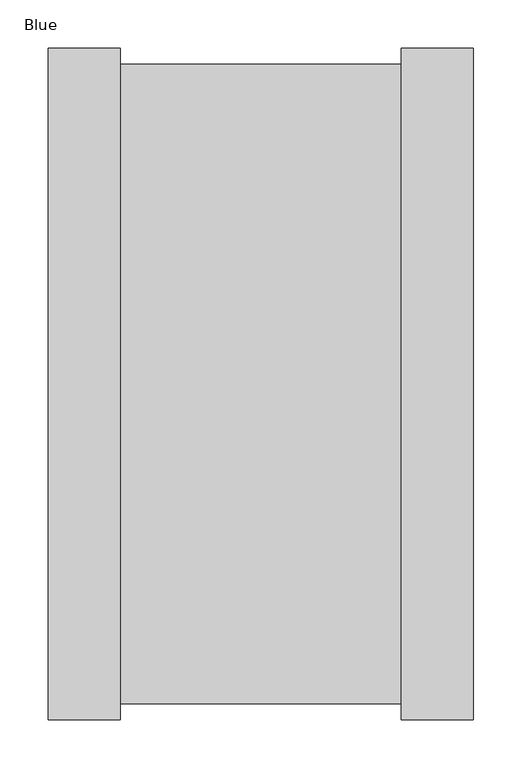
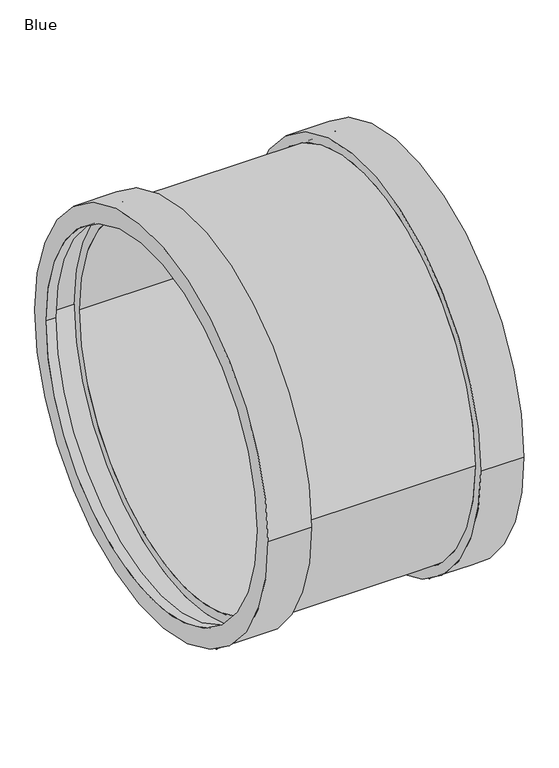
"""IFC4 building model written with IfcOpenShell, lengths in millimetres: pipe fitting geometry, AWADUKT PP Union USM : Blue."""

from ifc_helpers import new_model, si_unit, frame, origin, place, context, project, spatial, polyline, circle_curve, source, transform, mapped, element, save
from ifc_brep_helpers import plane_surface, cylinder_surface, revolved_surface, advanced_brep


def blue_2b39e290(model_context):
    return source(origin(), model_context, "Body", "AdvancedBrep", [
        advanced_brep(
        [(-162.4, 315.0, 0.0), (-162.4, -315.0, 0.0), (162.4, -315.0, 0.0), (162.4, 315.0, 0.0), (-203.9, 331.6, 0.0), (-203.9, -331.6, 0.0), (-162.4, -331.6, 0.0), (-162.4, 331.6, 0.0), (-220.5, 315.0, 0.0), (-220.5, -315.0, 0.0), (-203.9, -315.0, 0.0), (-203.9, 315.0, 0.0), (-145.8, 348.2, 0.0), (-145.8, -348.2, 0.0), (-220.5, -348.2, 0.0), (-220.5, 348.2, 0.0), (145.8, 331.6, 0.0), (145.8, -331.6, 0.0), (-145.8, -331.6, 0.0), (-145.8, 331.6, 0.0), (220.5, 348.2, 0.0), (220.5, -348.2, 0.0), (145.8, -348.2, 0.0), (145.8, 348.2, 0.0), (203.9, 315.0, 0.0), (203.9, -315.0, 0.0), (220.5, -315.0, 0.0), (220.5, 315.0, 0.0), (162.4, 331.6, 0.0), (162.4, -331.6, 0.0), (203.9, -331.6, 0.0), (203.9, 331.6, 0.0)],
        [
            (0, 1, circle_curve(frame((-162.4, 0.0, 0.0), z_axis=(-1.0, 0.0, 0.0), x_axis=(0.0, -1.0, 0.0)), 315.0)),
            (1, 2),
            (2, 3, circle_curve(frame((162.4, 0.0, 0.0), z_axis=(1.0, 0.0, 0.0), x_axis=(0.0, -1.0, 0.0)), 315.0)),
            (3, 0),
            (4, 5, circle_curve(frame((-203.9, 0.0, 0.0), z_axis=(-1.0, 0.0, 0.0), x_axis=(0.0, -1.0, 0.0)), 331.6)),
            (5, 6),
            (6, 7, circle_curve(frame((-162.4, 0.0, 0.0), z_axis=(1.0, 0.0, 0.0), x_axis=(0.0, -1.0, 0.0)), 331.6)),
            (7, 4),
            (8, 9, circle_curve(frame((-220.5, 0.0, 0.0), z_axis=(-1.0, 0.0, 0.0), x_axis=(0.0, -1.0, 0.0)), 315.0)),
            (9, 10),
            (10, 11, circle_curve(frame((-203.9, 0.0, 0.0), z_axis=(1.0, 0.0, 0.0), x_axis=(0.0, -1.0, 0.0)), 315.0)),
            (11, 8),
            (12, 13, circle_curve(frame((-145.8, 0.0, 0.0), z_axis=(-1.0, 0.0, 0.0), x_axis=(0.0, -1.0, 0.0)), 348.2)),
            (13, 14),
            (14, 15, circle_curve(frame((-220.5, 0.0, 0.0), z_axis=(1.0, 0.0, 0.0), x_axis=(0.0, -1.0, 0.0)), 348.2)),
            (15, 12),
            (16, 17, circle_curve(frame((145.8, 0.0, 0.0), z_axis=(-1.0, 0.0, 0.0), x_axis=(0.0, -1.0, 0.0)), 331.6)),
            (17, 18),
            (18, 19, circle_curve(frame((-145.8, 0.0, 0.0), z_axis=(1.0, 0.0, 0.0), x_axis=(0.0, -1.0, 0.0)), 331.6)),
            (19, 16),
            (20, 21, circle_curve(frame((220.5, 0.0, 0.0), z_axis=(-1.0, 0.0, 0.0), x_axis=(0.0, -1.0, 0.0)), 348.2)),
            (21, 22),
            (22, 23, circle_curve(frame((145.8, 0.0, 0.0), z_axis=(1.0, 0.0, 0.0), x_axis=(0.0, -1.0, 0.0)), 348.2)),
            (23, 20),
            (24, 25, circle_curve(frame((203.9, 0.0, 0.0), z_axis=(-1.0, 0.0, 0.0), x_axis=(0.0, -1.0, 0.0)), 315.0)),
            (25, 26),
            (26, 27, circle_curve(frame((220.5, 0.0, 0.0), z_axis=(1.0, 0.0, 0.0), x_axis=(0.0, -1.0, 0.0)), 315.0)),
            (27, 24),
            (28, 29, circle_curve(frame((162.4, 0.0, 0.0), z_axis=(-1.0, 0.0, 0.0), x_axis=(0.0, -1.0, 0.0)), 331.6)),
            (29, 30),
            (30, 31, circle_curve(frame((203.9, 0.0, 0.0), z_axis=(1.0, 0.0, 0.0), x_axis=(0.0, -1.0, 0.0)), 331.6)),
            (31, 28),
            (1, 0, circle_curve(frame((-162.4, 0.0, 0.0), z_axis=(-1.0, 0.0, 0.0), x_axis=(0.0, 1.0, 0.0)), 315.0)),
            (3, 2, circle_curve(frame((162.4, 0.0, 0.0), z_axis=(1.0, 0.0, 0.0), x_axis=(0.0, 1.0, 0.0)), 315.0)),
            (6, 7, circle_curve(frame((-162.4, 0.0, 0.0), z_axis=(-1.0, 0.0, 0.0), x_axis=(0.0, 1.0, 0.0)), 331.6)),
            (5, 4, circle_curve(frame((-203.9, 0.0, 0.0), z_axis=(-1.0, 0.0, 0.0), x_axis=(0.0, 1.0, 0.0)), 331.6)),
            (10, 11, circle_curve(frame((-203.9, 0.0, 0.0), z_axis=(-1.0, 0.0, 0.0), x_axis=(0.0, 1.0, 0.0)), 315.0)),
            (9, 8, circle_curve(frame((-220.5, 0.0, 0.0), z_axis=(-1.0, 0.0, 0.0), x_axis=(0.0, 1.0, 0.0)), 315.0)),
            (14, 15, circle_curve(frame((-220.5, 0.0, 0.0), z_axis=(-1.0, 0.0, 0.0), x_axis=(0.0, 1.0, 0.0)), 348.2)),
            (13, 12, circle_curve(frame((-145.8, 0.0, 0.0), z_axis=(-1.0, 0.0, 0.0), x_axis=(0.0, 1.0, 0.0)), 348.2)),
            (18, 19, circle_curve(frame((-145.8, 0.0, 0.0), z_axis=(-1.0, 0.0, 0.0), x_axis=(0.0, 1.0, 0.0)), 331.6)),
            (17, 16, circle_curve(frame((145.8, 0.0, 0.0), z_axis=(-1.0, 0.0, 0.0), x_axis=(0.0, 1.0, 0.0)), 331.6)),
            (22, 23, circle_curve(frame((145.8, 0.0, 0.0), z_axis=(-1.0, 0.0, 0.0), x_axis=(0.0, 1.0, 0.0)), 348.2)),
            (21, 20, circle_curve(frame((220.5, 0.0, 0.0), z_axis=(-1.0, 0.0, 0.0), x_axis=(0.0, 1.0, 0.0)), 348.2)),
            (26, 27, circle_curve(frame((220.5, 0.0, 0.0), z_axis=(-1.0, 0.0, 0.0), x_axis=(0.0, 1.0, 0.0)), 315.0)),
            (25, 24, circle_curve(frame((203.9, 0.0, 0.0), z_axis=(-1.0, 0.0, 0.0), x_axis=(0.0, 1.0, 0.0)), 315.0)),
            (30, 31, circle_curve(frame((203.9, 0.0, 0.0), z_axis=(-1.0, 0.0, 0.0), x_axis=(0.0, 1.0, 0.0)), 331.6)),
            (29, 28, circle_curve(frame((162.4, 0.0, 0.0), z_axis=(-1.0, 0.0, 0.0), x_axis=(0.0, 1.0, 0.0)), 331.6)),
        ],
        [
            revolved_surface(polyline([(162.4, -315.0, 0.0), (-162.4, -315.0, 0.0)]), (0.0, 0.0, 0.0), (1.0, 0.0, 0.0)),
            revolved_surface(polyline([(-162.4, -331.6, 0.0), (-203.9, -331.6, 0.0)]), (0.0, 0.0, 0.0), (1.0, 0.0, 0.0)),
            revolved_surface(polyline([(-203.9, -315.0, 0.0), (-220.5, -315.0, 0.0)]), (0.0, 0.0, 0.0), (1.0, 0.0, 0.0)),
            cylinder_surface(frame((0.0, 0.0, 0.0), z_axis=(1.0, 0.0, 0.0), x_axis=(0.0, -1.0, 0.0)), 348.2),
            cylinder_surface(frame((0.0, 0.0, 0.0), z_axis=(1.0, 0.0, 0.0), x_axis=(0.0, -1.0, 0.0)), 331.6),
            revolved_surface(polyline([(220.5, -315.0, 0.0), (203.9, -315.0, 0.0)]), (0.0, 0.0, 0.0), (1.0, 0.0, 0.0)),
            revolved_surface(polyline([(203.9, -331.6, 0.0), (162.4, -331.6, 0.0)]), (0.0, 0.0, 0.0), (1.0, 0.0, 0.0)),
            revolved_surface(polyline([(162.4, 315.0, 0.0), (-162.4, 315.0, 0.0)]), (0.0, 0.0, 0.0), (1.0, 0.0, 0.0)),
            plane_surface(frame((-162.4, 0.0, 0.0), z_axis=(-1.0, 0.0, 0.0), x_axis=(0.0, 1.0, 0.0))),
            revolved_surface(polyline([(-162.4, 331.6, 0.0), (-203.9, 331.6, 0.0)]), (0.0, 0.0, 0.0), (1.0, 0.0, 0.0)),
            plane_surface(frame((-203.9, 0.0, 0.0), z_axis=(1.0, 0.0, 0.0), x_axis=(0.0, 1.0, 0.0))),
            revolved_surface(polyline([(-203.9, 315.0, 0.0), (-220.5, 315.0, 0.0)]), (0.0, 0.0, 0.0), (1.0, 0.0, 0.0)),
            plane_surface(frame((-220.5, 0.0, 0.0), z_axis=(-1.0, 0.0, 0.0), x_axis=(0.0, 1.0, 0.0))),
            cylinder_surface(frame((0.0, 0.0, 0.0), z_axis=(1.0, 0.0, 0.0), x_axis=(0.0, 1.0, 0.0)), 348.2),
            plane_surface(frame((-145.8, 0.0, 0.0), z_axis=(1.0, 0.0, 0.0), x_axis=(0.0, 1.0, 0.0))),
            cylinder_surface(frame((0.0, 0.0, 0.0), z_axis=(1.0, 0.0, 0.0), x_axis=(0.0, 1.0, 0.0)), 331.6),
            plane_surface(frame((145.8, 0.0, 0.0), z_axis=(-1.0, 0.0, 0.0), x_axis=(0.0, 1.0, 0.0))),
            plane_surface(frame((220.5, 0.0, 0.0), z_axis=(1.0, 0.0, 0.0), x_axis=(0.0, 1.0, 0.0))),
            revolved_surface(polyline([(220.5, 315.0, 0.0), (203.9, 315.0, 0.0)]), (0.0, 0.0, 0.0), (1.0, 0.0, 0.0)),
            plane_surface(frame((203.9, 0.0, 0.0), z_axis=(-1.0, 0.0, 0.0), x_axis=(0.0, 1.0, 0.0))),
            revolved_surface(polyline([(203.9, 331.6, 0.0), (162.4, 331.6, 0.0)]), (0.0, 0.0, 0.0), (1.0, 0.0, 0.0)),
            plane_surface(frame((162.4, 0.0, 0.0), z_axis=(1.0, 0.0, 0.0), x_axis=(0.0, 1.0, 0.0))),
        ],
        [
            (0, [[1, 2, 3, 4]]),
            (1, [[5, 6, 7, 8]]),
            (2, [[9, 10, 11, 12]]),
            (3, [[13, 14, 15, 16]]),
            (4, [[17, 18, 19, 20]]),
            (3, [[21, 22, 23, 24]]),
            (5, [[25, 26, 27, 28]]),
            (6, [[29, 30, 31, 32]]),
            (7, [[33, -4, 34, -2]]),
            (8, [[35, -7], [-33, -1]]),
            (9, [[36, -8, -35, -6]]),
            (10, [[-36, -5], [37, -11]]),
            (11, [[38, -12, -37, -10]]),
            (12, [[39, -15], [-38, -9]]),
            (13, [[40, -16, -39, -14]]),
            (14, [[-40, -13], [41, -19]]),
            (15, [[42, -20, -41, -18]]),
            (16, [[43, -23], [-42, -17]]),
            (13, [[44, -24, -43, -22]]),
            (17, [[-44, -21], [45, -27]]),
            (18, [[46, -28, -45, -26]]),
            (19, [[47, -31], [-46, -25]]),
            (20, [[48, -32, -47, -30]]),
            (21, [[-48, -29], [-34, -3]]),
        ],
    ),
    ])


if __name__ == "__main__":
    model = new_model("IFC4")
    model_context = context("Model", 3, world=origin())
    ifc_project = project(units=[si_unit("LENGTHUNIT", "METRE", prefix="MILLI")], contexts=[model_context])
    site = spatial("IfcSite", under=ifc_project)
    building = spatial("IfcBuilding", under=site)
    placement = place(None, origin())
    blue_shape = blue_2b39e290(model_context)
    element("IfcPipeFitting", 1, ObjectType="AWADUKT PP Union USM : Blue", at=placement, inside=building, context=model_context, shape_type="MappedRepresentation", body=[
        mapped(blue_shape, transform((0.0, 0.0, 0.0), x_axis=(1.0, 0.0, 0.0), y_axis=(0.0, 1.0, 0.0), z_axis=(0.0, 0.0, 1.0))),
    ])
    save(model, "model.ifc")
